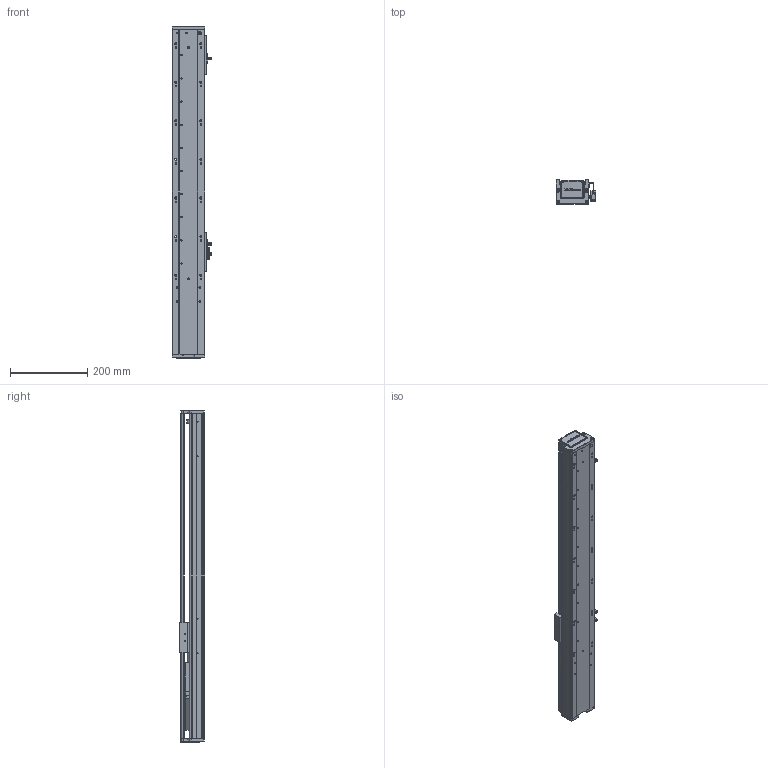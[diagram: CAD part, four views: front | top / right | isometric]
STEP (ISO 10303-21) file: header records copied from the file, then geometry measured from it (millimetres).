
FILE_DESCRIPTION (( 'STEP AP203' ), '1' );
FILE_NAME ('RY80-L1620-300-IK.SLDASM_500.step', '2021-02-22T05:28:58', ( '盈信电脑' ), ( '东莞市道滘镇水果街19号' ), 'SwSTEP 2.0', 'SolidWorks 2012', '' );
FILE_SCHEMA (( 'CONFIG_CONTROL_DESIGN' ));
Products named in the file (14): RY80-L1620-300-IK.SLDASM_500; RY80囀离萇儂啣; 滅袉蝶18-24; 侂狟100W; RY80囀离ヶ啣; 672嫖萇羲壽假蚾釱; RY80俋离覜茼え; 覜茼ん672; RY80-300倰第奻裔啣-IK_500; 滅袉蝶18-10; RY80萇儂傷盓傅釱; RY80綴裔啣; RY80-300倰第菁釱-IK_500; RY80臏賑輸
Assembly tree (16 placements, depth 2):
  RY80-L1620-300-IK.SLDASM_500
    RY80-300倰第菁釱-IK_500
    RY80臏賑輸
    RY80-300倰第奻裔啣-IK_500
    RY80萇儂傷盓傅釱
    RY80綴裔啣
    滅袉蝶18-10
    672嫖萇羲壽假蚾釱  x2
    覜茼ん672  x3
    RY80俋离覜茼え
    侂狟100W
    RY80囀离萇儂啣
    RY80囀离ヶ啣
    滅袉蝶18-24
Bounding box: 103.7 x 65 x 861 mm (x, y, z)
Volume: 1531629.2 mm3; surface area: 635599.4 mm2
Topology: 16 solids, 16 shells, 2085 faces, 5788 edges, 3775 vertices
Faces by surface type: plane 1274, cylinder 673, cone 94, bspline 44
Entity records: 65953 total; most frequent: CARTESIAN_POINT 16669, ORIENTED_EDGE 10296, DIRECTION 9279, EDGE_CURVE 5148, VECTOR 3441, LINE 3441, VERTEX_POINT 3391, AXIS2_PLACEMENT_3D 2919
